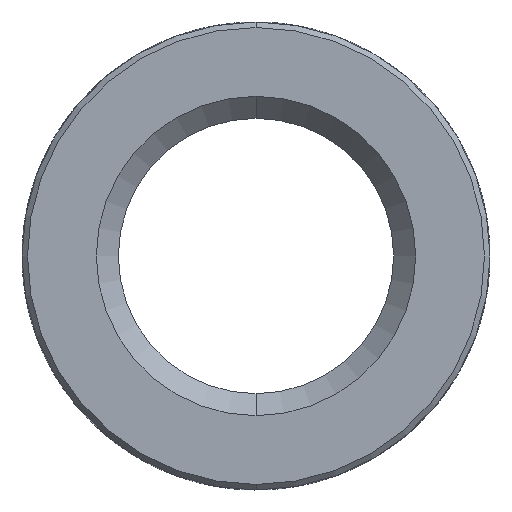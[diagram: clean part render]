
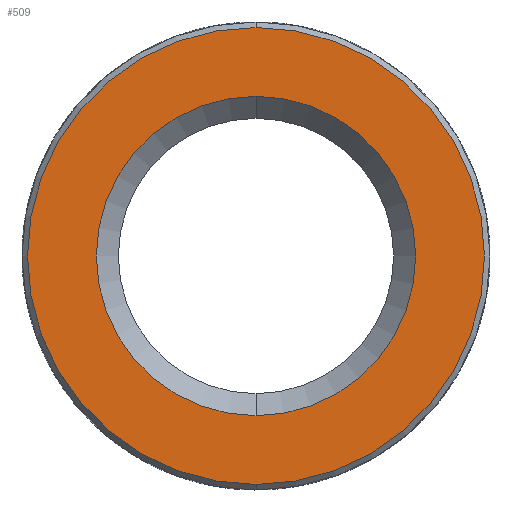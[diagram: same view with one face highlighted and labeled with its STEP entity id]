
A CAD part, front view. The second image highlights one B-rep face of the part: STEP entity #509.
In plain terms, the highlighted planar face has unit normal (0, -1, 0).
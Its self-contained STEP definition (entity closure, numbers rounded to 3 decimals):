
#26 = VERTEX_POINT ( 'NONE', #642 ) ;
#66 = DIRECTION ( 'NONE',  ( 0., 1., 0. ) ) ;
#93 = EDGE_CURVE ( 'NONE', #3512, #26, #1928, .T. ) ;
#418 = AXIS2_PLACEMENT_3D ( 'NONE', #3119, #1380, #3401 ) ;
#509 = ADVANCED_FACE ( 'NONE', ( #570, #3480 ), #3183, .T. ) ;
#570 = FACE_OUTER_BOUND ( 'NONE', #2536, .T. ) ;
#642 = CARTESIAN_POINT ( 'NONE',  ( 0., -6.3, 4.15 ) ) ;
#732 = CARTESIAN_POINT ( 'NONE',  ( 0., -6.3, -2.9 ) ) ;
#877 = ORIENTED_EDGE ( 'NONE', *, *, #1720, .T. ) ;
#964 = AXIS2_PLACEMENT_3D ( 'NONE', #2289, #1135, #3768 ) ;
#1022 = VERTEX_POINT ( 'NONE', #3419 ) ;
#1111 = ORIENTED_EDGE ( 'NONE', *, *, #93, .T. ) ;
#1135 = DIRECTION ( 'NONE',  ( 0., -1., 0. ) ) ;
#1205 = AXIS2_PLACEMENT_3D ( 'NONE', #3524, #1795, #3243 ) ;
#1270 = DIRECTION ( 'NONE',  ( 0., 0., -1. ) ) ;
#1312 = CIRCLE ( 'NONE', #2330, 2.9 ) ;
#1358 = CIRCLE ( 'NONE', #418, 2.9 ) ;
#1377 = AXIS2_PLACEMENT_3D ( 'NONE', #2929, #3506, #2344 ) ;
#1380 = DIRECTION ( 'NONE',  ( 0., 1., 0. ) ) ;
#1464 = ORIENTED_EDGE ( 'NONE', *, *, #3078, .T. ) ;
#1648 = EDGE_CURVE ( 'NONE', #1022, #3446, #1358, .T. ) ;
#1720 = EDGE_CURVE ( 'NONE', #26, #3512, #2446, .T. ) ;
#1795 = DIRECTION ( 'NONE',  ( 0., -1., 0. ) ) ;
#1888 = CARTESIAN_POINT ( 'NONE',  ( 0., -6.3, -4.15 ) ) ;
#1928 = CIRCLE ( 'NONE', #1205, 4.15 ) ;
#2289 = CARTESIAN_POINT ( 'NONE',  ( 0., -6.3, 0. ) ) ;
#2330 = AXIS2_PLACEMENT_3D ( 'NONE', #2728, #66, #1270 ) ;
#2344 = DIRECTION ( 'NONE',  ( 0., 0., -1. ) ) ;
#2446 = CIRCLE ( 'NONE', #964, 4.15 ) ;
#2536 = EDGE_LOOP ( 'NONE', ( #877, #1111 ) ) ;
#2728 = CARTESIAN_POINT ( 'NONE',  ( 0., -6.3, 0. ) ) ;
#2929 = CARTESIAN_POINT ( 'NONE',  ( 0., -6.3, 4.25 ) ) ;
#3078 = EDGE_CURVE ( 'NONE', #3446, #1022, #1312, .T. ) ;
#3119 = CARTESIAN_POINT ( 'NONE',  ( 0., -6.3, 0. ) ) ;
#3183 = PLANE ( 'NONE',  #1377 ) ;
#3243 = DIRECTION ( 'NONE',  ( 0., 0., -1. ) ) ;
#3401 = DIRECTION ( 'NONE',  ( 0., 0., -1. ) ) ;
#3419 = CARTESIAN_POINT ( 'NONE',  ( 0., -6.3, 2.9 ) ) ;
#3446 = VERTEX_POINT ( 'NONE', #732 ) ;
#3480 = FACE_BOUND ( 'NONE', #3586, .T. ) ;
#3506 = DIRECTION ( 'NONE',  ( 0., -1., 0. ) ) ;
#3512 = VERTEX_POINT ( 'NONE', #1888 ) ;
#3524 = CARTESIAN_POINT ( 'NONE',  ( 0., -6.3, 0. ) ) ;
#3549 = ORIENTED_EDGE ( 'NONE', *, *, #1648, .T. ) ;
#3586 = EDGE_LOOP ( 'NONE', ( #1464, #3549 ) ) ;
#3768 = DIRECTION ( 'NONE',  ( 0., 0., -1. ) ) ;
